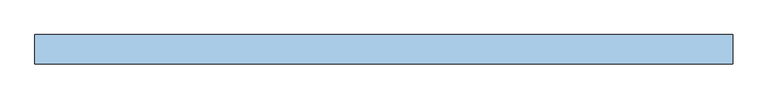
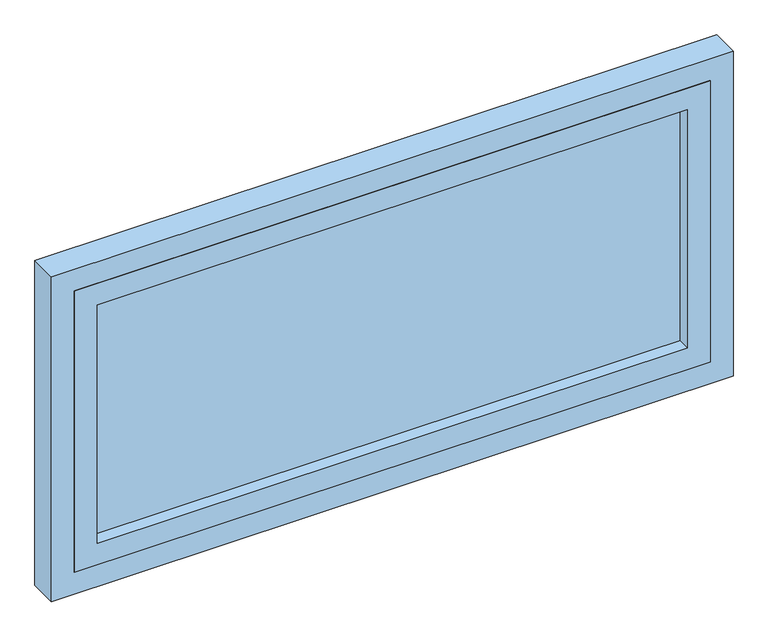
"""IFC4 building model written with IfcOpenShell, lengths in millimetres: window geometry, VENT_ALUM_PROY : VD-19 / PROY BAÑO 1.24 X 0.6."""

from ifc_helpers import new_model, si_unit, frame, origin, place, context, project, spatial, polyline, outline, extrude, source, transform, mapped, element, save


def window_95a6d300(model_context):
    return source(origin(), model_context, "Body", "SweptSolid", [
        extrude(outline(polyline([(1360.0, -555.0), (840.0, -555.0), (840.0, 555.0), (1360.0, 555.0), (1360.0, -555.0)]), holes=[polyline([(880.0, -515.0), (1320.0, -515.0), (1320.0, 515.0), (880.0, 515.0), (880.0, -515.0)])]), frame((0.0, -25.0, 0.0), z_axis=(0.0, 1.0, 0.0), x_axis=(0.0, 0.0, 1.0)), (0.0, 0.0, 1.0), 50.0),
        extrude(outline(polyline([(515.0, 3.0), (515.0, -3.0), (-515.0, -3.0), (-515.0, 3.0), (515.0, 3.0)])), frame((0.0, 0.0, 880.0), z_axis=(0.0, 0.0, 1.0), x_axis=(1.0, 0.0, 0.0)), (0.0, 0.0, 1.0), 440.0),
        extrude(outline(polyline([(1400.0, -595.0), (800.0, -595.0), (800.0, 595.0), (1400.0, 595.0), (1400.0, -595.0)]), holes=[polyline([(840.0, -555.0), (1360.0, -555.0), (1360.0, 555.0), (840.0, 555.0), (840.0, -555.0)])]), frame((0.0, -25.0, 0.0), z_axis=(0.0, 1.0, 0.0), x_axis=(0.0, 0.0, 1.0)), (0.0, 0.0, 1.0), 50.0),
    ])


if __name__ == "__main__":
    model = new_model("IFC4")
    model_context = context("Model", 3, world=origin())
    ifc_project = project(units=[si_unit("LENGTHUNIT", "METRE", prefix="MILLI")], contexts=[model_context])
    site = spatial("IfcSite", under=ifc_project)
    building = spatial("IfcBuilding", under=site)
    placement = place(None, origin())
    window_shape = window_95a6d300(model_context)
    element("IfcWindow", 1, ObjectType="VENT_ALUM_PROY : VD-19 / PROY BAÑO 1.24 X 0.6", at=placement, inside=building, context=model_context, shape_type="MappedRepresentation", body=[
        mapped(window_shape, transform((0.0, 0.0, 0.0), x_axis=(1.0, 0.0, 0.0), y_axis=(0.0, 1.0, 0.0), z_axis=(0.0, 0.0, 1.0))),
    ])
    save(model, "model.ifc")
